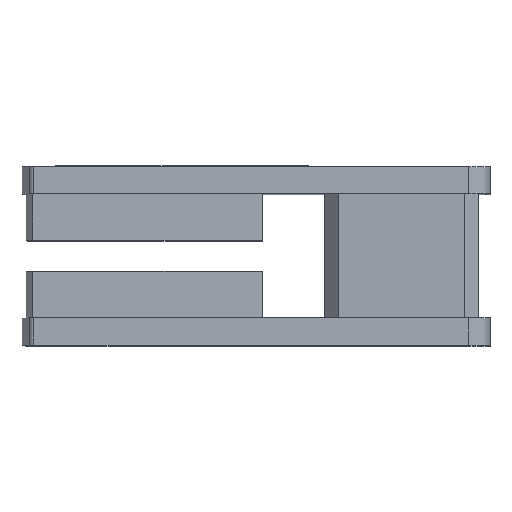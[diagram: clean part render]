
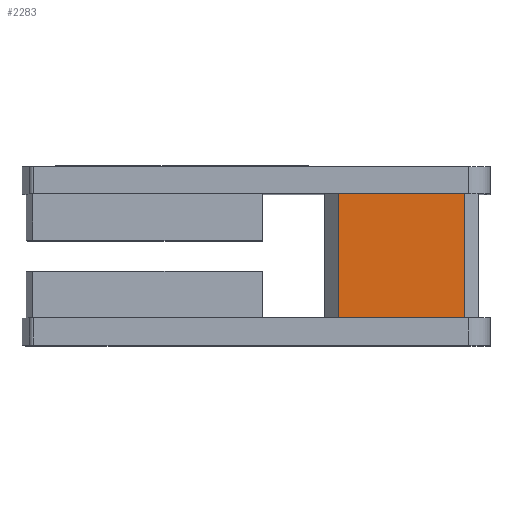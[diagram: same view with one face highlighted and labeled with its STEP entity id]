
A CAD part, top view. The second image highlights one B-rep face of the part: STEP entity #2283.
In plain terms, the highlighted planar face has unit normal (0, 0, 1).
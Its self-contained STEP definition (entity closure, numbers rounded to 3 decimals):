
#25 = DIRECTION ( 'NONE',  ( 0., -1., 0. ) ) ;
#26 = VECTOR ( 'NONE', #25, 1000. ) ;
#27 = LINE ( 'NONE', #34, #26 ) ;
#28 = CARTESIAN_POINT ( 'NONE',  ( -1454., 32.9, 69.5 ) ) ;
#30 = DIRECTION ( 'NONE',  ( -1., 0., 0. ) ) ;
#31 = DIRECTION ( 'NONE',  ( 0., 0., -1. ) ) ;
#32 = CARTESIAN_POINT ( 'NONE',  ( -1481.5, 32.9, 69.5 ) ) ;
#33 = AXIS2_PLACEMENT_3D ( 'NONE', #32, #31, #30 ) ;
#34 = CARTESIAN_POINT ( 'NONE',  ( -1454., 32.9, 69.5 ) ) ;
#40 = FACE_OUTER_BOUND ( 'NONE', #2191, .T. ) ;
#41 = PLANE ( 'NONE',  #33 ) ;
#222 = CARTESIAN_POINT ( 'NONE',  ( -1481.5, 5.9, 69.5 ) ) ;
#1103 = VERTEX_POINT ( 'NONE', #3041 ) ;
#1106 = EDGE_CURVE ( 'NONE', #1234, #1103, #2937, .T. ) ;
#1234 = VERTEX_POINT ( 'NONE', #222 ) ;
#2131 = ORIENTED_EDGE ( 'NONE', *, *, #2269, .T. ) ;
#2182 = ORIENTED_EDGE ( 'NONE', *, *, #2186, .F. ) ;
#2183 = VERTEX_POINT ( 'NONE', #3301 ) ;
#2186 = EDGE_CURVE ( 'NONE', #2183, #2285, #3289, .T. ) ;
#2191 = EDGE_LOOP ( 'NONE', ( #2286, #2282, #2182, #2131 ) ) ;
#2269 = EDGE_CURVE ( 'NONE', #2183, #1234, #2906, .T. ) ;
#2282 = ORIENTED_EDGE ( 'NONE', *, *, #2284, .F. ) ;
#2283 = ADVANCED_FACE ( 'NONE', ( #40 ), #41, .F. ) ;
#2284 = EDGE_CURVE ( 'NONE', #2285, #1103, #27, .T. ) ;
#2285 = VERTEX_POINT ( 'NONE', #28 ) ;
#2286 = ORIENTED_EDGE ( 'NONE', *, *, #1106, .T. ) ;
#2903 = CARTESIAN_POINT ( 'NONE',  ( -1481.5, 32.9, 69.5 ) ) ;
#2904 = DIRECTION ( 'NONE',  ( 0., -1., 0. ) ) ;
#2905 = VECTOR ( 'NONE', #2904, 1000. ) ;
#2906 = LINE ( 'NONE', #2903, #2905 ) ;
#2937 = LINE ( 'NONE', #2941, #2946 ) ;
#2941 = CARTESIAN_POINT ( 'NONE',  ( -1481.5, 5.9, 69.5 ) ) ;
#2946 = VECTOR ( 'NONE', #2948, 1000. ) ;
#2948 = DIRECTION ( 'NONE',  ( 1., 0., 0. ) ) ;
#3041 = CARTESIAN_POINT ( 'NONE',  ( -1454., 5.9, 69.5 ) ) ;
#3288 = VECTOR ( 'NONE', #3338, 1000. ) ;
#3289 = LINE ( 'NONE', #3311, #3288 ) ;
#3301 = CARTESIAN_POINT ( 'NONE',  ( -1481.5, 32.9, 69.5 ) ) ;
#3311 = CARTESIAN_POINT ( 'NONE',  ( -1481.5, 32.9, 69.5 ) ) ;
#3338 = DIRECTION ( 'NONE',  ( 1., 0., 0. ) ) ;
